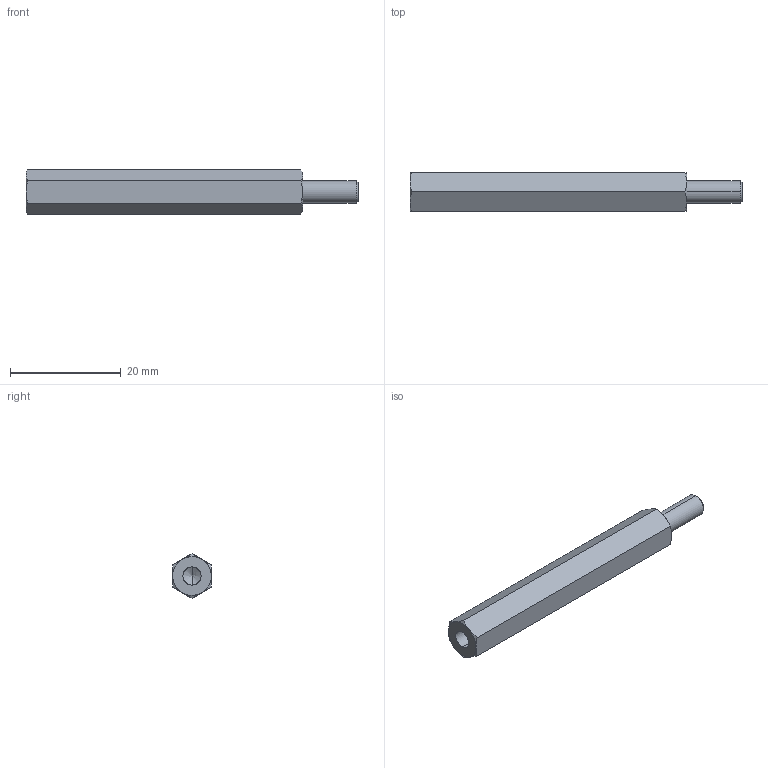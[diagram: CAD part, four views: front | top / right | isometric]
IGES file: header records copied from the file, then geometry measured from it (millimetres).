
Start section: SolidWorks IGES file using analytic representation for surfaces
Global section: file name: C:\Users\render1\Desktop\P0185_IGES\P0185.04-50.igs; native system: SolidWorks 2009; preprocessor: SolidWorks 2009; author: render1; date: 130627.112221; units: millimetre
Bounding box: 60 x 7 x 8.08 mm (x, y, z)
Surface area: 1521.3 mm2 (no closed solid volume)
Topology: 0 solids, 0 shells, 29 faces, 320 edges, 318 vertices
Faces by surface type: revolution 20, bspline 9
